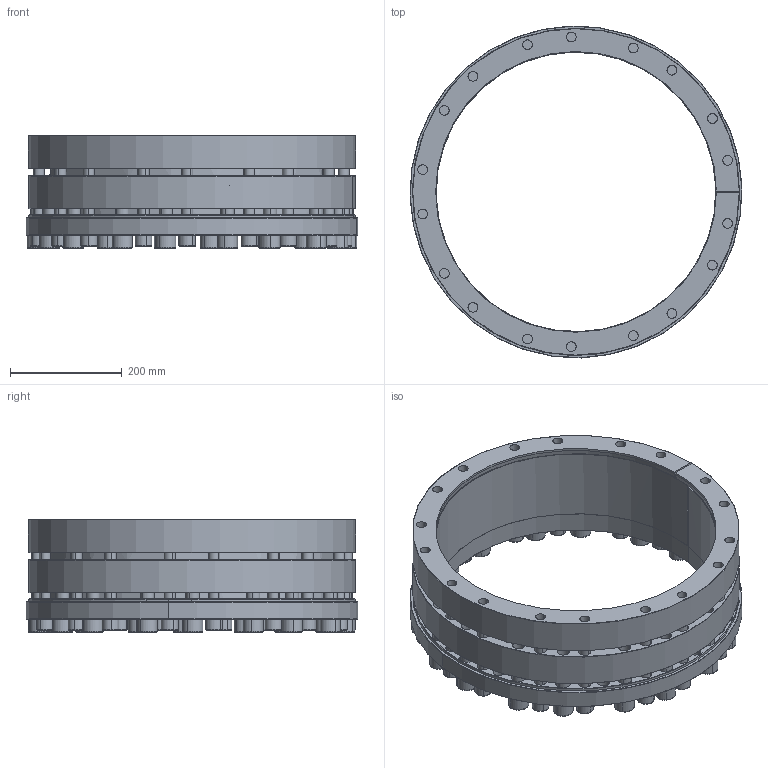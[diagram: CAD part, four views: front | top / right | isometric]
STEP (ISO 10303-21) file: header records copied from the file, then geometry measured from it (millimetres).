
FILE_DESCRIPTION (( 'STEP AP214' ), '1' );
FILE_NAME ('CONEX-P-500x585-P-019.step', '2015-11-30T21:15:15', ( '' ), ( '' ), 'SwSTEP 2.0', 'SolidWorks 2013', '' );
FILE_SCHEMA (( 'AUTOMOTIVE_DESIGN' ));
Length unit declared in the file: millimetre
Products named in the file (1): CONEX-P-500x585-P-019
Bounding box: 593.72 x 593.72 x 202 mm (x, y, z)
Volume: 12101184.4 mm3; surface area: 2045674 mm2
Topology: 39 solids, 39 shells, 1232 faces, 2834 edges, 1682 vertices
Faces by surface type: plane 562, cylinder 354, cone 170, torus 146
Entity records: 48574 total; most frequent: DIRECTION 6528, CARTESIAN_POINT 5793, ORIENTED_EDGE 5524, EDGE_CURVE 2762, AXIS2_PLACEMENT_3D 2561, VERTEX_POINT 1682, EDGE_LOOP 1504, LINE 1406
